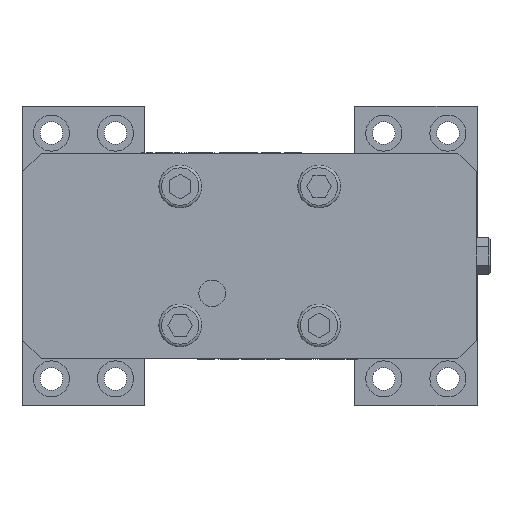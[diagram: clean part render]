
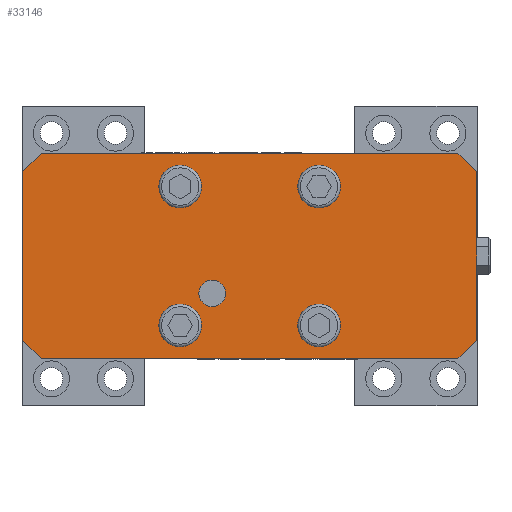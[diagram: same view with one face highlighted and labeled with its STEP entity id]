
A CAD part, front view. The second image highlights one B-rep face of the part: STEP entity #33146.
In plain terms, the highlighted planar face has unit normal (0, -1, 0).
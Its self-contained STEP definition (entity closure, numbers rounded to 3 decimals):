
#60 = AXIS2_PLACEMENT_3D ( 'NONE', #31848, #6136, #11305 ) ;
#802 = CARTESIAN_POINT ( 'NONE',  ( -78., 0., -38.5 ) ) ;
#891 = DIRECTION ( 'NONE',  ( 0., 0., -1. ) ) ;
#900 = DIRECTION ( 'NONE',  ( 0., 1., 0. ) ) ;
#959 = EDGE_CURVE ( 'NONE', #17206, #5627, #11515, .T. ) ;
#1236 = PLANE ( 'NONE',  #7044 ) ;
#1270 = EDGE_LOOP ( 'NONE', ( #7212 ) ) ;
#1285 = CARTESIAN_POINT ( 'NONE',  ( -20., 0., -26. ) ) ;
#1562 = CIRCLE ( 'NONE', #29451, 6. ) ;
#2514 = DIRECTION ( 'NONE',  ( 0.707, 0., 0.707 ) ) ;
#2697 = EDGE_LOOP ( 'NONE', ( #10818 ) ) ;
#2846 = ORIENTED_EDGE ( 'NONE', *, *, #16187, .F. ) ;
#3270 = FACE_BOUND ( 'NONE', #2697, .T. ) ;
#3367 = CARTESIAN_POINT ( 'NONE',  ( -14., 0., -14. ) ) ;
#3376 = CIRCLE ( 'NONE', #12698, 5. ) ;
#3418 = CARTESIAN_POINT ( 'NONE',  ( 85., 0., -38.5 ) ) ;
#3590 = ORIENTED_EDGE ( 'NONE', *, *, #5950, .F. ) ;
#3644 = CARTESIAN_POINT ( 'NONE',  ( 85., 0., -38.5 ) ) ;
#3754 = FACE_BOUND ( 'NONE', #1270, .T. ) ;
#3946 = EDGE_CURVE ( 'NONE', #4507, #4507, #21327, .T. ) ;
#3957 = VERTEX_POINT ( 'NONE', #1285 ) ;
#3962 = DIRECTION ( 'NONE',  ( 0., -1., 0. ) ) ;
#4028 = ORIENTED_EDGE ( 'NONE', *, *, #14767, .F. ) ;
#4507 = VERTEX_POINT ( 'NONE', #22070 ) ;
#4779 = VERTEX_POINT ( 'NONE', #802 ) ;
#4889 = VERTEX_POINT ( 'NONE', #25302 ) ;
#5047 = LINE ( 'NONE', #15523, #15096 ) ;
#5573 = CARTESIAN_POINT ( 'NONE',  ( 85., 0., 31.5 ) ) ;
#5605 = DIRECTION ( 'NONE',  ( 0., -1., 0. ) ) ;
#5627 = VERTEX_POINT ( 'NONE', #28628 ) ;
#5755 = VECTOR ( 'NONE', #25881, 1000. ) ;
#5827 = EDGE_CURVE ( 'NONE', #18494, #4779, #27746, .T. ) ;
#5950 = EDGE_CURVE ( 'NONE', #28342, #28342, #30119, .T. ) ;
#6045 = VERTEX_POINT ( 'NONE', #17083 ) ;
#6136 = DIRECTION ( 'NONE',  ( 0., -1., 0. ) ) ;
#6164 = FACE_BOUND ( 'NONE', #20719, .T. ) ;
#6559 = DIRECTION ( 'NONE',  ( 0., 0., 1. ) ) ;
#6564 = DIRECTION ( 'NONE',  ( -1., 0., 0. ) ) ;
#7044 = AXIS2_PLACEMENT_3D ( 'NONE', #3418, #900, #11339 ) ;
#7212 = ORIENTED_EDGE ( 'NONE', *, *, #25717, .F. ) ;
#7595 = AXIS2_PLACEMENT_3D ( 'NONE', #27488, #3962, #6559 ) ;
#7669 = EDGE_LOOP ( 'NONE', ( #15941 ) ) ;
#8146 = VERTEX_POINT ( 'NONE', #8819 ) ;
#8819 = CARTESIAN_POINT ( 'NONE',  ( -26., 0., 20. ) ) ;
#9061 = ORIENTED_EDGE ( 'NONE', *, *, #23213, .T. ) ;
#9444 = LINE ( 'NONE', #14761, #31092 ) ;
#9959 = EDGE_CURVE ( 'NONE', #6045, #4889, #21219, .T. ) ;
#10111 = DIRECTION ( 'NONE',  ( 0.707, 0., -0.707 ) ) ;
#10818 = ORIENTED_EDGE ( 'NONE', *, *, #3946, .F. ) ;
#11305 = DIRECTION ( 'NONE',  ( 0., 0., -1. ) ) ;
#11339 = DIRECTION ( 'NONE',  ( 0., 0., 1. ) ) ;
#11515 = LINE ( 'NONE', #19205, #18970 ) ;
#11781 = DIRECTION ( 'NONE',  ( 0., -1., 0. ) ) ;
#12005 = CARTESIAN_POINT ( 'NONE',  ( -26., 0., -26. ) ) ;
#12023 = ORIENTED_EDGE ( 'NONE', *, *, #15449, .T. ) ;
#12150 = LINE ( 'NONE', #33214, #25313 ) ;
#12501 = CARTESIAN_POINT ( 'NONE',  ( -78., 0., -38.5 ) ) ;
#12698 = AXIS2_PLACEMENT_3D ( 'NONE', #3367, #5605, #32322 ) ;
#13441 = CARTESIAN_POINT ( 'NONE',  ( 85., 0., -31.5 ) ) ;
#13749 = FACE_OUTER_BOUND ( 'NONE', #16888, .T. ) ;
#13902 = ORIENTED_EDGE ( 'NONE', *, *, #24074, .F. ) ;
#13915 = LINE ( 'NONE', #24383, #33223 ) ;
#14269 = FACE_BOUND ( 'NONE', #7669, .T. ) ;
#14274 = VECTOR ( 'NONE', #10111, 1000. ) ;
#14362 = CARTESIAN_POINT ( 'NONE',  ( 78., 0., -38.5 ) ) ;
#14761 = CARTESIAN_POINT ( 'NONE',  ( 85., 0., -38.5 ) ) ;
#14767 = EDGE_CURVE ( 'NONE', #8146, #8146, #16415, .T. ) ;
#15055 = EDGE_LOOP ( 'NONE', ( #3590 ) ) ;
#15096 = VECTOR ( 'NONE', #2514, 1000. ) ;
#15449 = EDGE_CURVE ( 'NONE', #4889, #17206, #12150, .T. ) ;
#15523 = CARTESIAN_POINT ( 'NONE',  ( 85., 0., -31.5 ) ) ;
#15941 = ORIENTED_EDGE ( 'NONE', *, *, #32402, .F. ) ;
#16187 = EDGE_CURVE ( 'NONE', #33869, #4779, #32446, .T. ) ;
#16415 = CIRCLE ( 'NONE', #60, 6. ) ;
#16888 = EDGE_LOOP ( 'NONE', ( #12023, #31921, #9061, #28636, #2846, #26066, #13902, #23774 ) ) ;
#17083 = CARTESIAN_POINT ( 'NONE',  ( 85., 0., 31.5 ) ) ;
#17206 = VERTEX_POINT ( 'NONE', #19167 ) ;
#18494 = VERTEX_POINT ( 'NONE', #21789 ) ;
#18825 = CARTESIAN_POINT ( 'NONE',  ( 26., 0., 26. ) ) ;
#18919 = CARTESIAN_POINT ( 'NONE',  ( -14., 0., -19. ) ) ;
#18970 = VECTOR ( 'NONE', #24078, 1000. ) ;
#18985 = DIRECTION ( 'NONE',  ( -1., 0., 0. ) ) ;
#19167 = CARTESIAN_POINT ( 'NONE',  ( -78., 0., 38.5 ) ) ;
#19205 = CARTESIAN_POINT ( 'NONE',  ( -78., 0., 38.5 ) ) ;
#19686 = DIRECTION ( 'NONE',  ( -1., 0., 0. ) ) ;
#20719 = EDGE_LOOP ( 'NONE', ( #4028 ) ) ;
#21219 = LINE ( 'NONE', #5573, #5755 ) ;
#21305 = VERTEX_POINT ( 'NONE', #13441 ) ;
#21327 = CIRCLE ( 'NONE', #7595, 6. ) ;
#21789 = CARTESIAN_POINT ( 'NONE',  ( -85., 0., -31.5 ) ) ;
#22070 = CARTESIAN_POINT ( 'NONE',  ( 26., 0., -20. ) ) ;
#22562 = EDGE_CURVE ( 'NONE', #33869, #21305, #5047, .T. ) ;
#22667 = DIRECTION ( 'NONE',  ( 1., 0., 0. ) ) ;
#22949 = CARTESIAN_POINT ( 'NONE',  ( 20., 0., 26. ) ) ;
#23213 = EDGE_CURVE ( 'NONE', #5627, #18494, #13915, .T. ) ;
#23774 = ORIENTED_EDGE ( 'NONE', *, *, #9959, .T. ) ;
#24074 = EDGE_CURVE ( 'NONE', #6045, #21305, #9444, .T. ) ;
#24078 = DIRECTION ( 'NONE',  ( -0.707, 0., -0.707 ) ) ;
#24383 = CARTESIAN_POINT ( 'NONE',  ( -85., 0., -38.5 ) ) ;
#25302 = CARTESIAN_POINT ( 'NONE',  ( 78., 0., 38.5 ) ) ;
#25313 = VECTOR ( 'NONE', #19686, 1000. ) ;
#25717 = EDGE_CURVE ( 'NONE', #31929, #31929, #3376, .T. ) ;
#25881 = DIRECTION ( 'NONE',  ( -0.707, 0., 0.707 ) ) ;
#26066 = ORIENTED_EDGE ( 'NONE', *, *, #22562, .T. ) ;
#26757 = FACE_BOUND ( 'NONE', #15055, .T. ) ;
#27488 = CARTESIAN_POINT ( 'NONE',  ( 26., 0., -26. ) ) ;
#27746 = LINE ( 'NONE', #12501, #14274 ) ;
#28342 = VERTEX_POINT ( 'NONE', #22949 ) ;
#28462 = AXIS2_PLACEMENT_3D ( 'NONE', #18825, #11781, #18985 ) ;
#28628 = CARTESIAN_POINT ( 'NONE',  ( -85., 0., 31.5 ) ) ;
#28636 = ORIENTED_EDGE ( 'NONE', *, *, #5827, .T. ) ;
#29451 = AXIS2_PLACEMENT_3D ( 'NONE', #12005, #33400, #22667 ) ;
#30119 = CIRCLE ( 'NONE', #28462, 6. ) ;
#30289 = VECTOR ( 'NONE', #6564, 1000. ) ;
#30337 = DIRECTION ( 'NONE',  ( 0., 0., -1. ) ) ;
#31092 = VECTOR ( 'NONE', #30337, 1000. ) ;
#31848 = CARTESIAN_POINT ( 'NONE',  ( -26., 0., 26. ) ) ;
#31921 = ORIENTED_EDGE ( 'NONE', *, *, #959, .T. ) ;
#31929 = VERTEX_POINT ( 'NONE', #18919 ) ;
#32322 = DIRECTION ( 'NONE',  ( 0., 0., -1. ) ) ;
#32402 = EDGE_CURVE ( 'NONE', #3957, #3957, #1562, .T. ) ;
#32446 = LINE ( 'NONE', #3644, #30289 ) ;
#33146 = ADVANCED_FACE ( 'NONE', ( #3754, #26757, #3270, #14269, #6164, #13749 ), #1236, .F. ) ;
#33214 = CARTESIAN_POINT ( 'NONE',  ( 85., 0., 38.5 ) ) ;
#33223 = VECTOR ( 'NONE', #891, 1000. ) ;
#33400 = DIRECTION ( 'NONE',  ( 0., -1., 0. ) ) ;
#33869 = VERTEX_POINT ( 'NONE', #14362 ) ;
